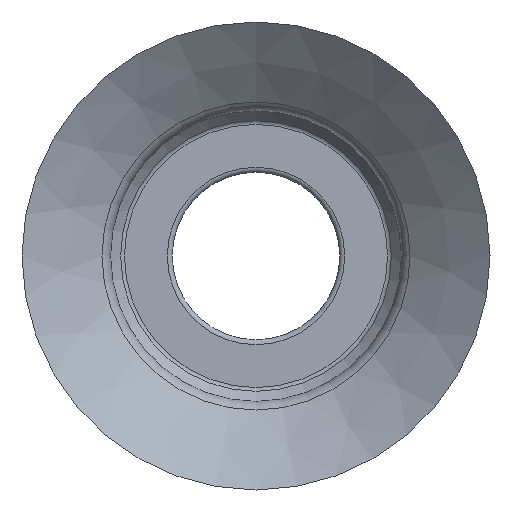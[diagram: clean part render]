
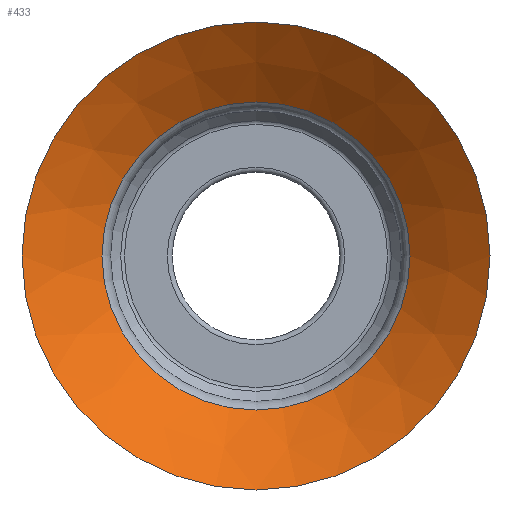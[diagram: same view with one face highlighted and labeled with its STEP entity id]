
A CAD part, front view. The second image highlights one B-rep face of the part: STEP entity #433.
In plain terms, the highlighted conical face has half-angle 52.548 degrees and reference radius 6.253 mm.
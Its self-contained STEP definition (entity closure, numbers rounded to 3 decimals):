
#34 = VERTEX_POINT ( 'NONE', #343 ) ;
#37 = DIRECTION ( 'NONE',  ( 0., 0., 1. ) ) ;
#69 = CARTESIAN_POINT ( 'NONE',  ( 0., -18.9, 0. ) ) ;
#94 = VERTEX_POINT ( 'NONE', #234 ) ;
#135 = FACE_BOUND ( 'NONE', #325, .T. ) ;
#137 = FACE_OUTER_BOUND ( 'NONE', #361, .T. ) ;
#142 = CONICAL_SURFACE ( 'NONE', #321, 6.253, 0.917 ) ;
#145 = AXIS2_PLACEMENT_3D ( 'NONE', #425, #384, #322 ) ;
#190 = EDGE_CURVE ( 'NONE', #94, #94, #364, .T. ) ;
#234 = CARTESIAN_POINT ( 'NONE',  ( 0., -16.413, 6.253 ) ) ;
#257 = CIRCLE ( 'NONE', #315, 9.5 ) ;
#263 = DIRECTION ( 'NONE',  ( 0., 0., -1. ) ) ;
#269 = EDGE_CURVE ( 'NONE', #34, #34, #257, .T. ) ;
#315 = AXIS2_PLACEMENT_3D ( 'NONE', #69, #351, #37 ) ;
#320 = ORIENTED_EDGE ( 'NONE', *, *, #190, .T. ) ;
#321 = AXIS2_PLACEMENT_3D ( 'NONE', #406, #411, #263 ) ;
#322 = DIRECTION ( 'NONE',  ( 0., 0., 1. ) ) ;
#325 = EDGE_LOOP ( 'NONE', ( #320 ) ) ;
#343 = CARTESIAN_POINT ( 'NONE',  ( 0., -18.9, 9.5 ) ) ;
#351 = DIRECTION ( 'NONE',  ( 0., 1., 0. ) ) ;
#361 = EDGE_LOOP ( 'NONE', ( #426 ) ) ;
#364 = CIRCLE ( 'NONE', #145, 6.253 ) ;
#384 = DIRECTION ( 'NONE',  ( 0., 1., 0. ) ) ;
#406 = CARTESIAN_POINT ( 'NONE',  ( 0., -16.413, 0. ) ) ;
#411 = DIRECTION ( 'NONE',  ( 0., -1., 0. ) ) ;
#425 = CARTESIAN_POINT ( 'NONE',  ( 0., -16.413, 0. ) ) ;
#426 = ORIENTED_EDGE ( 'NONE', *, *, #269, .F. ) ;
#433 = ADVANCED_FACE ( 'NONE', ( #137, #135 ), #142, .F. ) ;
